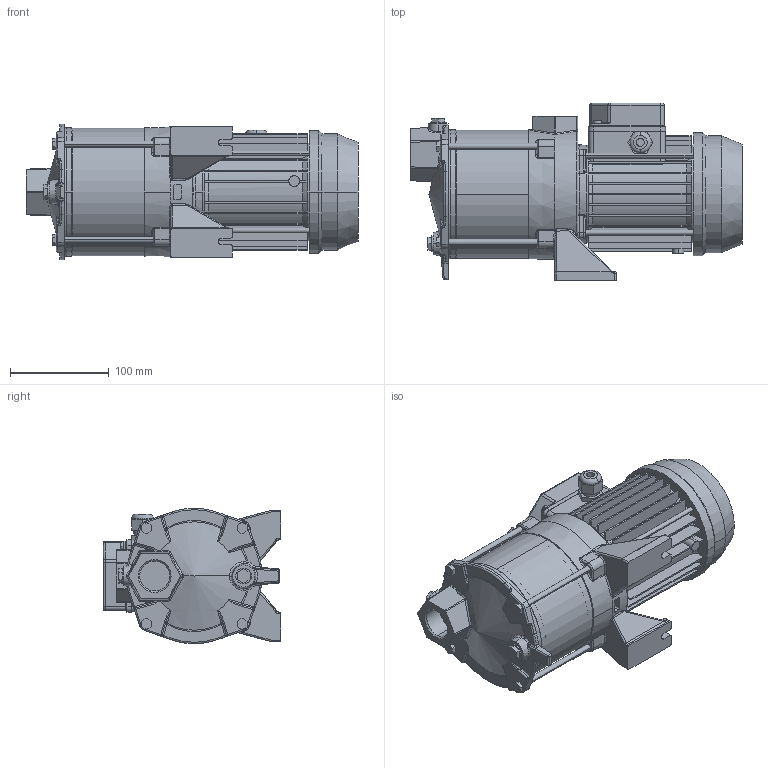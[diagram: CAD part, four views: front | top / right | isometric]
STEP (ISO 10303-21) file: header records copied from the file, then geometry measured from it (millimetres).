
FILE_DESCRIPTION((''),'2;1');
FILE_NAME('COMPACT_L_A_6_ASM','2019-10-07T',('rosa'),('"Ebara Pumps Europe +39.444.706811"'),'PRO/ENGINEER BY PARAMETRIC TECHNOLOGY CORPORATION, 2017170','PRO/ENGINEER BY PARAMETRIC TECHNOLOGY CORPORATION, 2017170','');
FILE_SCHEMA(('AUTOMOTIVE_DESIGN { 1 0 10303 214 1 1 1 1 }'));
Length unit declared in the file: millimetre
Products named in the file (6): MEC_63_TRIFASE_4_TIRANTI; 80600; 2710X_L-73; 20998; 40012_M6X112; COMPACT_L_A_6_ASM
Assembly tree (8 placements, depth 2):
  COMPACT_L_A_6_ASM
    MEC_63_TRIFASE_4_TIRANTI
    80600
    2710X_L-73
    20998
    40012_M6X112  x4
Bounding box: 335.5 x 179.5 x 137 mm (x, y, z)
Volume: 2142604 mm3; surface area: 388770.2 mm2
Topology: 8 solids, 8 shells, 1101 faces, 2588 edges, 1529 vertices
Faces by surface type: plane 365, cylinder 318, bspline 245, cone 71, torus 65, sphere 37
Entity records: 51567 total; most frequent: CARTESIAN_POINT 19751, ORIENTED_EDGE 5028, DIRECTION 4491, PRESENTATION_STYLE_ASSIGNMENT 2519, STYLED_ITEM 2519, CURVE_STYLE 2514, EDGE_CURVE 2514, AXIS2_PLACEMENT_3D 1766
